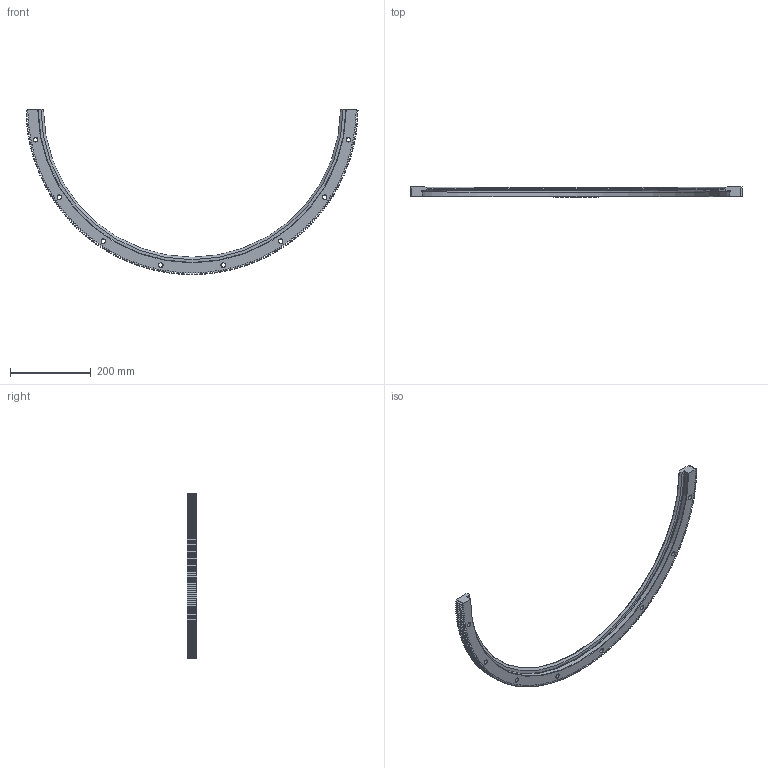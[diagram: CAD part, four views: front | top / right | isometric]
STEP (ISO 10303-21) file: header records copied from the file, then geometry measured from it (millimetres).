
FILE_DESCRIPTION( ( 'STEP AP203' ), '1' );
FILE_NAME( 'p:/temp/worker_7/temp/exporttempdir_4444_150_q4rCH/format_0/RIL 820 R180 P.stp', '2021-09-21T06:36:42', ( 'License CC BY-ND 4.0' ), ( 'CADENAS' ), ' ', 'PARTsolutions', ' ' );
FILE_SCHEMA( ( 'CONFIG_CONTROL_DESIGN' ) );
Length unit declared in the file: millimetre
Products named in the file (1): _RIL 820 R180 P
Bounding box: 819.93 x 24 x 408 mm (x, y, z)
Volume: 896444.9 mm3; surface area: 192784.3 mm2
Topology: 1 solids, 1 shells, 1266 faces, 3760 edges, 2504 vertices
Faces by surface type: plane 830, cylinder 221, cone 214, torus 1
Full cylindrical faces by diameter (mm): 11 x8, 18 x8
Entity records: 42518 total; most frequent: CARTESIAN_POINT 8759, ORIENTED_EDGE 7472, DIRECTION 6514, EDGE_CURVE 3736, LINE 2664, VECTOR 2664, VERTEX_POINT 2504, AXIS2_PLACEMENT_3D 1925
